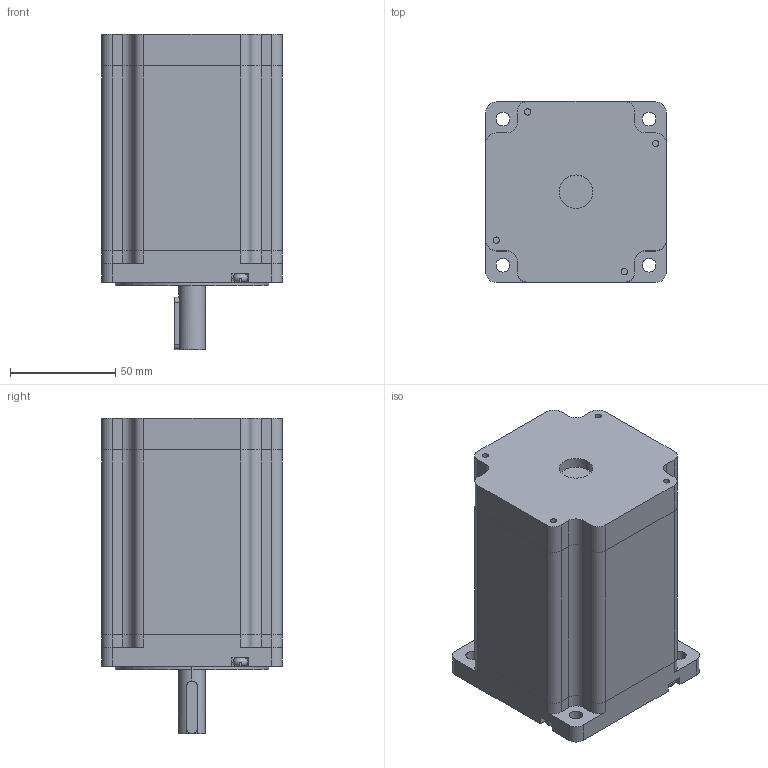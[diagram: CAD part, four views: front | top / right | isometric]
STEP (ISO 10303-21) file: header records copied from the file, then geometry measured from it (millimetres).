
FILE_DESCRIPTION (( 'STEP AP214' ), '1' );
FILE_NAME ('ÝL-XSM86-85N6A R1.STEP', '2020-05-28T07:23:02', ( '' ), ( '' ), 'SwSTEP 2.0', 'SolidWorks 2017', '' );
FILE_SCHEMA (( 'AUTOMOTIVE_DESIGN' ));
Length unit declared in the file: millimetre
Products named in the file (7): SM86-85N6A; 5; 2; 尳-XSM86-85N6A R1; 3; 4; 1
Assembly tree (9 placements, depth 3):
  尳-XSM86-85N6A R1
    SM86-85N6A
      1  x4
      2
      3
      4
      5
Bounding box: 86 x 86 x 150 mm (x, y, z)
Volume: 777554.7 mm3; surface area: 83202.8 mm2
Topology: 8 solids, 8 shells, 208 faces, 561 edges, 374 vertices
Faces by surface type: plane 126, cylinder 72, torus 8, cone 2
Entity records: 5554 total; most frequent: CARTESIAN_POINT 1048, DIRECTION 932, ORIENTED_EDGE 870, EDGE_CURVE 435, AXIS2_PLACEMENT_3D 334, VERTEX_POINT 290, VECTOR 264, LINE 264
